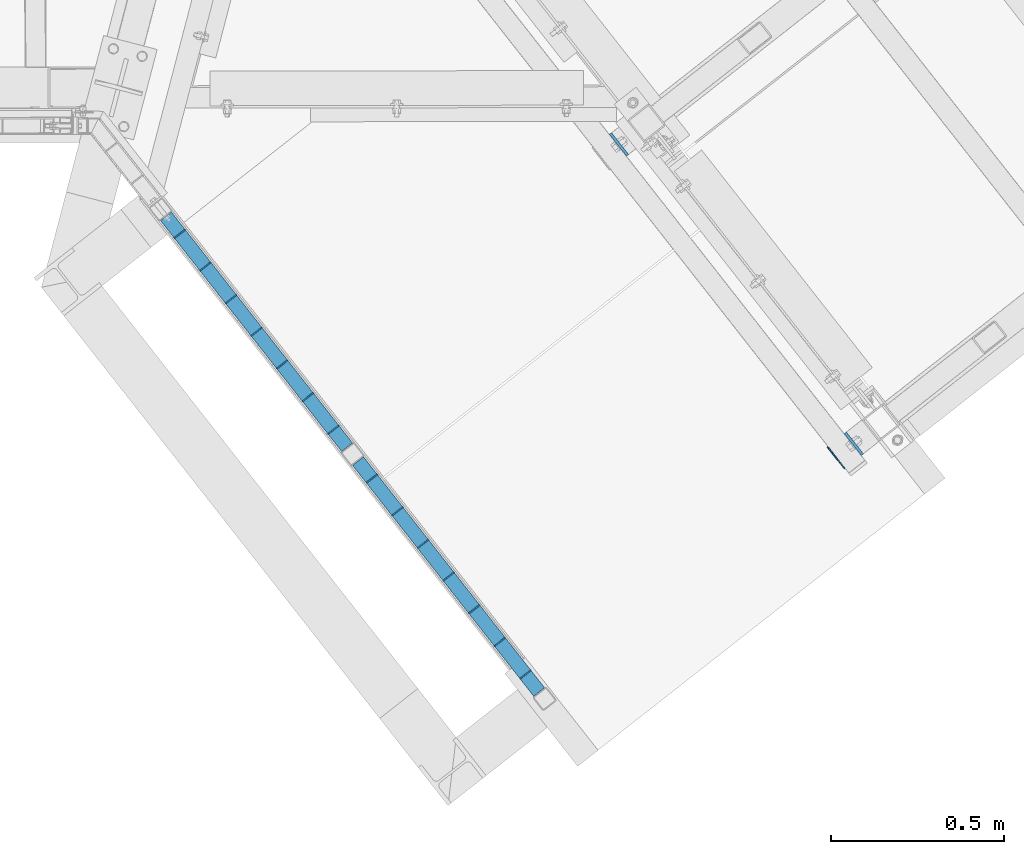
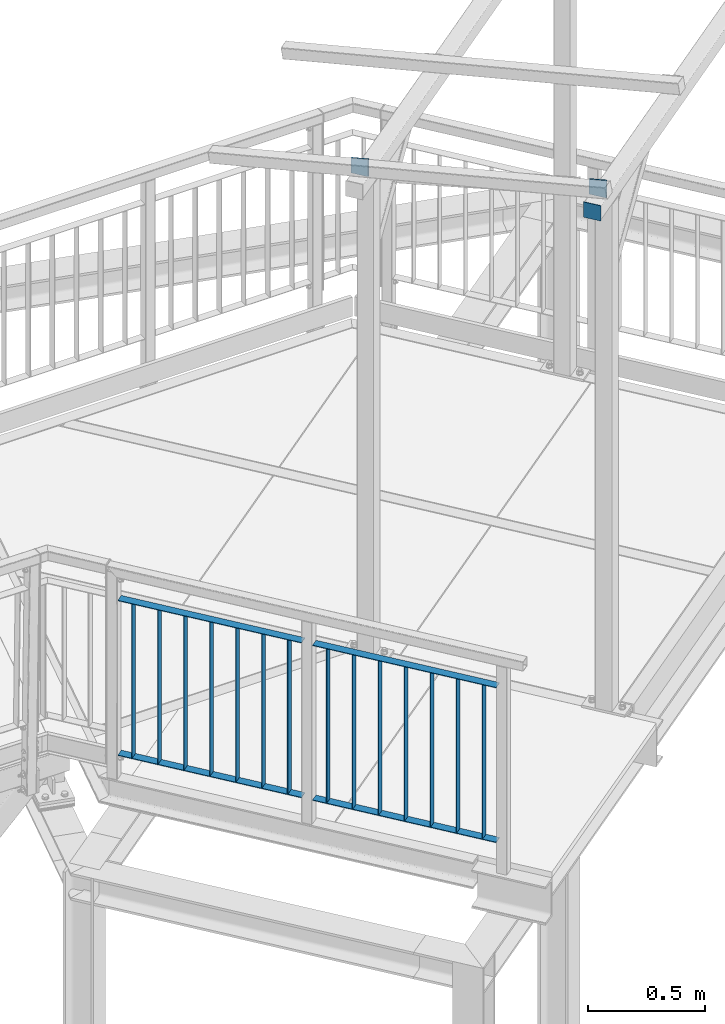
# One storey, part 124 of 169: 21 discrete accessories, 20 elements without a shape of their own.
"""IFC2X3 building model written with IfcOpenShell, lengths in millimetres."""

from ifc_helpers import new_model, si_unit, frame, origin_with_axes, origin_2d_with_axis, place, context, subcontext, project, spatial, polyline, rectangle, outline, extrude, boolean, clip, halfspace, material, type_object, element, aggregate, save


model = new_model("IFC2X3")

# Units and contexts
model_context = context("Model", 3, precision=1e-05, world=origin_with_axes())
body_context = subcontext(model_context, "Body", "Model", "MODEL_VIEW")
ifc_project = project(units=[si_unit("LENGTHUNIT", "METRE", prefix="MILLI"), si_unit("AREAUNIT", "SQUARE_METRE"), si_unit("VOLUMEUNIT", "CUBIC_METRE"), si_unit("MASSUNIT", "GRAM", prefix="KILO"), si_unit("TIMEUNIT", "SECOND"), si_unit("PLANEANGLEUNIT", "RADIAN"), si_unit("SOLIDANGLEUNIT", "STERADIAN"), si_unit("THERMODYNAMICTEMPERATUREUNIT", "DEGREE_CELSIUS"), si_unit("LUMINOUSINTENSITYUNIT", "LUMEN")], contexts=[model_context])

# Site, building, storey
site_placement = place(None, origin_with_axes())
site = spatial("IfcSite", under=ifc_project, at=site_placement, Name="Undefined", CompositionType="ELEMENT")
building_placement = place(site_placement, origin_with_axes())
building = spatial("IfcBuilding", under=site, at=building_placement, Name="Undefined", CompositionType="ELEMENT")
storey_placement = place(building_placement, origin_with_axes())
storey = spatial("IfcBuildingStorey", under=building, at=storey_placement, Name="Undefined", CompositionType="ELEMENT", Elevation=0.0)

# Assembly, discrete accessory
assembly_1_placement = place(storey_placement, origin_with_axes())
assembly_1 = element("IfcElementAssembly", 1, at=assembly_1_placement, inside=storey, Name="Steel Assembly", AssemblyPlace="NOTDEFINED", PredefinedType="RIGID_FRAME")
ifc_material = material(Name="STEEL/S235")
discrete_accessory_type_1 = type_object("IfcDiscreteAccessoryType", Name="BLACHA")
discrete_accessory_1_placement = place(assembly_1_placement, frame((20538.4952436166, -858.853045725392, 16540.2279191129), z_axis=(-0.7867732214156, -0.61724217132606, -1.0406294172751e-07), x_axis=(0.617242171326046, -0.786773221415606, 1.36000016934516e-07)))
discrete_accessory_1 = element("IfcDiscreteAccessory", 2, at=discrete_accessory_1_placement, type_object=discrete_accessory_type_1, material=ifc_material, Name="BLACHA", ObjectType="BL8*80", context=body_context, shape_type="SweptSolid", body=[
    extrude(outline(polyline([(0.0, 0.0), (80.0000000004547, 5.02041075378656e-10), (80.0000000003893, 89.9999999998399), (-2.08646997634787e-06, 77.0), (0.0, 0.0)])), frame((1.81942236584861e-12, -3.63797880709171e-12, -4.00000000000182), z_axis=(0.0, 0.0, 1.0), x_axis=(1.0, 0.0, 0.0)), (0.0, 0.0, 1.0), 8.0),
])

assembly_2_placement = place(storey_placement, origin_with_axes())
assembly_2 = element("IfcElementAssembly", 3, at=assembly_2_placement, inside=storey, Name="Steel Assembly", AssemblyPlace="NOTDEFINED", PredefinedType="RIGID_FRAME")
discrete_accessory_2_placement = place(assembly_2_placement, frame((19859.5290665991, 6.59722837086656, 16364.2279188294), z_axis=(-0.7867732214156, -0.61724217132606, -1.0406294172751e-07), x_axis=(0.617242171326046, -0.786773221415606, 1.36000016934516e-07)))
discrete_accessory_2 = element("IfcDiscreteAccessory", 4, at=discrete_accessory_2_placement, type_object=discrete_accessory_type_1, material=ifc_material, Name="BLACHA", ObjectType="BL8*80", context=body_context, shape_type="SweptSolid", body=[
    extrude(outline(polyline([(0.0, 0.0), (80.0000000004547, 5.02041075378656e-10), (80.0000000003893, 89.9999999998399), (-2.08646997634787e-06, 77.0), (0.0, 0.0)])), frame((1.81942236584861e-12, -3.63797880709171e-12, -4.00000000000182), z_axis=(0.0, 0.0, 1.0), x_axis=(1.0, 0.0, 0.0)), (0.0, 0.0, 1.0), 8.0),
])
aggregate(assembly_2, [discrete_accessory_2])

# Discrete accessory
discrete_accessory_3_placement = place(assembly_1_placement, frame((20486.9615975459, -899.282407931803, 16540.2279127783), z_axis=(0.786773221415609, 0.617242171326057, 0.0), x_axis=(0.617242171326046, -0.786773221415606, 1.36000016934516e-07)))
discrete_accessory_3 = element("IfcDiscreteAccessory", 5, at=discrete_accessory_3_placement, type_object=discrete_accessory_type_1, material=ifc_material, Name="BLACHA", ObjectType="BL3*80", context=body_context, shape_type="SweptSolid", body=[
    extrude(outline(polyline([(0.0, 0.0), (80.0000000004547, 5.02041075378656e-10), (80.0000000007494, 80.0000000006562), (1.40171323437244e-08, 80.0000000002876), (0.0, 0.0)])), frame((1.81898940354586e-12, -1.77635442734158e-15, -1.50000000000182), z_axis=(0.0, 0.0, 1.0), x_axis=(1.0, 0.0, 0.0)), (0.0, 0.0, 1.0), 3.0),
])

aggregate(assembly_1, [discrete_accessory_1, discrete_accessory_3])

# Assembly, discrete accessory
assembly_3_placement = place(storey_placement, origin_with_axes())
assembly_3 = element("IfcElementAssembly", 6, at=assembly_3_placement, inside=storey, Name="Steel Assembly", AssemblyPlace="NOTDEFINED", PredefinedType="RIGID_FRAME")
discrete_accessory_type_2 = type_object("IfcDiscreteAccessoryType", Name="PORĘCZ")
discrete_accessory_4_placement = place(assembly_3_placement, frame((19684.5379085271, -1648.0557913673, 14730.4174142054), z_axis=(-2.54700353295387e-10, 0.0, -1.0), x_axis=(-0.617242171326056, 0.786773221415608, 5.09999997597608e-08)))
discrete_accessory_4 = element("IfcDiscreteAccessory", 7, at=discrete_accessory_4_placement, type_object=discrete_accessory_type_2, material=ifc_material, Name="PORĘCZ", ObjectType="BL40*3", context=body_context, shape_type="CSG", body=[
    boolean("DIFFERENCE", boolean("DIFFERENCE", boolean("DIFFERENCE", boolean("DIFFERENCE", extrude(outline(polyline([(899.148526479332, -19.9999999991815), (50.500000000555, -19.9999999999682), (50.5000000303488, 20.0000000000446), (899.14852647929, 20.0000000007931), (899.148526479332, -19.9999999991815)])), frame((1.81898940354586e-12, -1.77635442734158e-15, -1.50000000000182), z_axis=(0.0, 0.0, 1.0), x_axis=(1.0, 0.0, 0.0)), (0.0, 0.0, 1.0), 3.0), extrude(rectangle(XDim=51.0, YDim=51.0, at=origin_2d_with_axis()), frame((25.0000000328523, 4.80036578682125e-08, -139.999999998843), z_axis=(0.0, 0.0, 1.0), x_axis=(1.0, 0.0, 0.0)), (0.0, 0.0, 1.0), 280.0)), extrude(rectangle(XDim=51.0, YDim=51.0, at=origin_2d_with_axis()), frame((924.648527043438, 1.38712238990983e-05, -140.000000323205), z_axis=(0.0, 0.0, 1.0), x_axis=(1.0, 0.0, 0.0)), (0.0, 0.0, 1.0), 280.0)), halfspace(frame((50.0000000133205, 1000.00000000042, 9.90996868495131e-05), z_axis=(1.0, 0.0, 0.0), x_axis=(-2.54700353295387e-10, 0.0, -1.0)), True)), halfspace(frame((899.648526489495, 1000.00000000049, 9.88982628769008e-05), z_axis=(-1.0, -3.46944695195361e-18, -1.38777878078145e-17), x_axis=(0.0, 0.0, 1.0)), True)),
])
aggregate(assembly_3, [discrete_accessory_4])

assembly_4_placement = place(storey_placement, origin_with_axes())
assembly_4 = element("IfcElementAssembly", 8, at=assembly_4_placement, inside=storey, Name="Steel Assembly", AssemblyPlace="NOTDEFINED", PredefinedType="RIGID_FRAME")
discrete_accessory_5_placement = place(assembly_4_placement, frame((19113.8058443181, -920.56709149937, 14730.4172924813), z_axis=(-2.54700353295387e-10, 0.0, -1.0), x_axis=(-0.617242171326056, 0.786773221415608, 5.09999997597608e-08)))
discrete_accessory_5 = element("IfcDiscreteAccessory", 9, at=discrete_accessory_5_placement, type_object=discrete_accessory_type_2, material=ifc_material, Name="PORĘCZ", ObjectType="BL40*3", context=body_context, shape_type="CSG", body=[
    boolean("DIFFERENCE", boolean("DIFFERENCE", boolean("DIFFERENCE", boolean("DIFFERENCE", extrude(outline(polyline([(874.148526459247, -19.9999999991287), (25.499999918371, -19.9999999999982), (25.4999999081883, 20.0000000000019), (874.148526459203, 20.0000000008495), (874.148526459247, -19.9999999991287)])), frame((1.81898940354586e-12, -1.77635442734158e-15, -1.50000000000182), z_axis=(0.0, 0.0, 1.0), x_axis=(1.0, 0.0, 0.0)), (0.0, 0.0, 1.0), 3.0), extrude(rectangle(XDim=51.0, YDim=51.0, at=origin_2d_with_axis()), frame((-5.94487782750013e-08, -4.65977194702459e-09, -139.999999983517), z_axis=(0.0, 0.0, 1.0), x_axis=(1.0, 0.0, 0.0)), (0.0, 0.0, 1.0), 280.0)), extrude(rectangle(XDim=51.0, YDim=51.0, at=origin_2d_with_axis()), frame((899.648526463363, 1.45715313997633e-05, -139.999999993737), z_axis=(0.0, 0.0, 1.0), x_axis=(1.0, 0.0, 0.0)), (0.0, 0.0, 1.0), 280.0)), halfspace(frame((24.9999999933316, 1000.00000000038, 0.000104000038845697), z_axis=(1.0, 0.0, 0.0), x_axis=(-2.54700353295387e-10, 0.0, -1.0)), True)), halfspace(frame((874.64852646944, 1000.00000000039, 0.000103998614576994), z_axis=(-1.0, -3.46944695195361e-18, -1.38777878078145e-17), x_axis=(0.0, 0.0, 1.0)), True)),
])
aggregate(assembly_4, [discrete_accessory_5])

assembly_5_placement = place(storey_placement, origin_with_axes())
assembly_5 = element("IfcElementAssembly", 10, at=assembly_5_placement, inside=storey, Name="Steel Assembly", AssemblyPlace="NOTDEFINED", PredefinedType="RIGID_FRAME")
discrete_accessory_6_placement = place(assembly_5_placement, frame((19613.6635188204, -1557.71512034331, 14875.4173990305), z_axis=(0.617242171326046, -0.786773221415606, 1.36000016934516e-07), x_axis=(-2.54700353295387e-10, 0.0, -1.0)))
discrete_accessory_6 = element("IfcDiscreteAccessory", 11, at=discrete_accessory_6_placement, type_object=discrete_accessory_type_2, material=ifc_material, Name="PORĘCZ", ObjectType="BL40*3", context=body_context, shape_type="Clipping", body=[
    clip(clip(clip(extrude(outline(polyline([(953.5, -20.0000000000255), (146.5, -20.0000000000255), (146.5, 20.0000000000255), (953.5, 20.0000000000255), (953.5, -20.0000000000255)])), frame((1.81898940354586e-12, -1.77635442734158e-15, -1.50000000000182), z_axis=(0.0, 0.0, 1.0), x_axis=(1.0, 0.0, 0.0)), (0.0, 0.0, 1.0), 3.0), halfspace(frame((146.5, 1000.00000000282, -1.78988557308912e-09), z_axis=(1.0, 0.0, 0.0), x_axis=(-2.54700353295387e-10, 0.0, -1.0)), True)), halfspace(frame((953.5, 999.999999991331, -2.08819983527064e-09), z_axis=(-1.0, -3.46944695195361e-18, -1.38777878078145e-17), x_axis=(0.0, 0.0, 1.0)), True)), halfspace(frame((24.9999999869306, 1000.00000000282, -1.78988557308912e-09), z_axis=(1.0, 0.0, 0.0), x_axis=(-2.54700353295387e-10, 0.0, -1.0)), True)),
])
aggregate(assembly_5, [discrete_accessory_6])

assembly_6_placement = place(storey_placement, origin_with_axes())
assembly_6 = element("IfcElementAssembly", 12, at=assembly_6_placement, inside=storey, Name="Steel Assembly", AssemblyPlace="NOTDEFINED", PredefinedType="RIGID_FRAME")
discrete_accessory_7_placement = place(assembly_6_placement, frame((19539.594458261, -1463.3023337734, 14875.4173832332), z_axis=(0.617242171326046, -0.786773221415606, 1.36000016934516e-07), x_axis=(-2.54700353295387e-10, 0.0, -1.0)))
discrete_accessory_7 = element("IfcDiscreteAccessory", 13, at=discrete_accessory_7_placement, type_object=discrete_accessory_type_2, material=ifc_material, Name="PORĘCZ", ObjectType="BL40*3", context=body_context, shape_type="Clipping", body=[
    clip(clip(clip(extrude(outline(polyline([(953.5, -20.0000000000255), (146.5, -20.0000000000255), (146.5, 20.0000000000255), (953.5, 20.0000000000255), (953.5, -20.0000000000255)])), frame((1.81898940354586e-12, -1.77635442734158e-15, -1.50000000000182), z_axis=(0.0, 0.0, 1.0), x_axis=(1.0, 0.0, 0.0)), (0.0, 0.0, 1.0), 3.0), halfspace(frame((146.5, 1000.00000000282, -1.78988557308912e-09), z_axis=(1.0, 0.0, 0.0), x_axis=(-2.54700353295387e-10, 0.0, -1.0)), True)), halfspace(frame((953.5, 999.999999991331, -2.08819983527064e-09), z_axis=(-1.0, -3.46944695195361e-18, -1.38777878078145e-17), x_axis=(0.0, 0.0, 1.0)), True)), halfspace(frame((24.9999999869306, 1000.00000000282, -1.78988557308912e-09), z_axis=(1.0, 0.0, 0.0), x_axis=(-2.54700353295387e-10, 0.0, -1.0)), True)),
])
aggregate(assembly_6, [discrete_accessory_7])

assembly_7_placement = place(storey_placement, origin_with_axes())
assembly_7 = element("IfcElementAssembly", 14, at=assembly_7_placement, inside=storey, Name="Steel Assembly", AssemblyPlace="NOTDEFINED", PredefinedType="RIGID_FRAME")
discrete_accessory_8_placement = place(assembly_7_placement, frame((19465.5253977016, -1368.8895472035, 14875.417367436), z_axis=(0.617242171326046, -0.786773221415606, 1.36000016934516e-07), x_axis=(-2.54700353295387e-10, 0.0, -1.0)))
discrete_accessory_8 = element("IfcDiscreteAccessory", 15, at=discrete_accessory_8_placement, type_object=discrete_accessory_type_2, material=ifc_material, Name="PORĘCZ", ObjectType="BL40*3", context=body_context, shape_type="Clipping", body=[
    clip(clip(clip(extrude(outline(polyline([(953.5, -20.0000000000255), (146.5, -20.0000000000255), (146.5, 20.0000000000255), (953.5, 20.0000000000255), (953.5, -20.0000000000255)])), frame((1.81898940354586e-12, -1.77635442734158e-15, -1.50000000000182), z_axis=(0.0, 0.0, 1.0), x_axis=(1.0, 0.0, 0.0)), (0.0, 0.0, 1.0), 3.0), halfspace(frame((146.5, 1000.00000000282, -1.78988557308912e-09), z_axis=(1.0, 0.0, 0.0), x_axis=(-2.54700353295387e-10, 0.0, -1.0)), True)), halfspace(frame((953.5, 999.999999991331, -2.08819983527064e-09), z_axis=(-1.0, -3.46944695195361e-18, -1.38777878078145e-17), x_axis=(0.0, 0.0, 1.0)), True)), halfspace(frame((24.9999999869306, 1000.00000000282, -1.78988557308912e-09), z_axis=(1.0, 0.0, 0.0), x_axis=(-2.54700353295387e-10, 0.0, -1.0)), True)),
])
aggregate(assembly_7, [discrete_accessory_8])

assembly_8_placement = place(storey_placement, origin_with_axes())
assembly_8 = element("IfcElementAssembly", 16, at=assembly_8_placement, inside=storey, Name="Steel Assembly", AssemblyPlace="NOTDEFINED", PredefinedType="RIGID_FRAME")
discrete_accessory_9_placement = place(assembly_8_placement, frame((19391.4563371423, -1274.47676063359, 14875.4173516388), z_axis=(0.617242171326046, -0.786773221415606, 1.36000016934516e-07), x_axis=(-2.54700353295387e-10, 0.0, -1.0)))
discrete_accessory_9 = element("IfcDiscreteAccessory", 17, at=discrete_accessory_9_placement, type_object=discrete_accessory_type_2, material=ifc_material, Name="PORĘCZ", ObjectType="BL40*3", context=body_context, shape_type="Clipping", body=[
    clip(clip(clip(extrude(outline(polyline([(953.5, -20.0000000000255), (146.5, -20.0000000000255), (146.5, 20.0000000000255), (953.5, 20.0000000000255), (953.5, -20.0000000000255)])), frame((1.81898940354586e-12, -1.77635442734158e-15, -1.50000000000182), z_axis=(0.0, 0.0, 1.0), x_axis=(1.0, 0.0, 0.0)), (0.0, 0.0, 1.0), 3.0), halfspace(frame((146.5, 1000.00000000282, -1.78988557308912e-09), z_axis=(1.0, 0.0, 0.0), x_axis=(-2.54700353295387e-10, 0.0, -1.0)), True)), halfspace(frame((953.5, 999.999999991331, -2.08819983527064e-09), z_axis=(-1.0, -3.46944695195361e-18, -1.38777878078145e-17), x_axis=(0.0, 0.0, 1.0)), True)), halfspace(frame((24.9999999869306, 1000.00000000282, -1.78988557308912e-09), z_axis=(1.0, 0.0, 0.0), x_axis=(-2.54700353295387e-10, 0.0, -1.0)), True)),
])
aggregate(assembly_8, [discrete_accessory_9])

assembly_9_placement = place(storey_placement, origin_with_axes())
assembly_9 = element("IfcElementAssembly", 18, at=assembly_9_placement, inside=storey, Name="Steel Assembly", AssemblyPlace="NOTDEFINED", PredefinedType="RIGID_FRAME")
discrete_accessory_10_placement = place(assembly_9_placement, frame((19317.387276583, -1180.06397406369, 14875.4173358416), z_axis=(0.617242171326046, -0.786773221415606, 1.36000016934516e-07), x_axis=(-2.54700353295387e-10, 0.0, -1.0)))
discrete_accessory_10 = element("IfcDiscreteAccessory", 19, at=discrete_accessory_10_placement, type_object=discrete_accessory_type_2, material=ifc_material, Name="PORĘCZ", ObjectType="BL40*3", context=body_context, shape_type="Clipping", body=[
    clip(clip(clip(extrude(outline(polyline([(953.5, -20.0000000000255), (146.5, -20.0000000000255), (146.5, 20.0000000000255), (953.5, 20.0000000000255), (953.5, -20.0000000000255)])), frame((1.81898940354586e-12, -1.77635442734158e-15, -1.50000000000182), z_axis=(0.0, 0.0, 1.0), x_axis=(1.0, 0.0, 0.0)), (0.0, 0.0, 1.0), 3.0), halfspace(frame((146.5, 1000.00000000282, -1.78988557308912e-09), z_axis=(1.0, 0.0, 0.0), x_axis=(-2.54700353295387e-10, 0.0, -1.0)), True)), halfspace(frame((953.5, 999.999999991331, -2.08819983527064e-09), z_axis=(-1.0, -3.46944695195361e-18, -1.38777878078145e-17), x_axis=(0.0, 0.0, 1.0)), True)), halfspace(frame((24.9999999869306, 1000.00000000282, -1.78988557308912e-09), z_axis=(1.0, 0.0, 0.0), x_axis=(-2.54700353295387e-10, 0.0, -1.0)), True)),
])
aggregate(assembly_9, [discrete_accessory_10])

assembly_10_placement = place(storey_placement, origin_with_axes())
assembly_10 = element("IfcElementAssembly", 20, at=assembly_10_placement, inside=storey, Name="Steel Assembly", AssemblyPlace="NOTDEFINED", PredefinedType="RIGID_FRAME")
discrete_accessory_11_placement = place(assembly_10_placement, frame((19243.3182160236, -1085.65118749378, 14875.4173200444), z_axis=(0.617242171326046, -0.786773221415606, 1.36000016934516e-07), x_axis=(-2.54700353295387e-10, 0.0, -1.0)))
discrete_accessory_11 = element("IfcDiscreteAccessory", 21, at=discrete_accessory_11_placement, type_object=discrete_accessory_type_2, material=ifc_material, Name="PORĘCZ", ObjectType="BL40*3", context=body_context, shape_type="Clipping", body=[
    clip(clip(clip(extrude(outline(polyline([(953.5, -20.0000000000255), (146.5, -20.0000000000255), (146.5, 20.0000000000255), (953.5, 20.0000000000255), (953.5, -20.0000000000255)])), frame((1.81898940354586e-12, -1.77635442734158e-15, -1.50000000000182), z_axis=(0.0, 0.0, 1.0), x_axis=(1.0, 0.0, 0.0)), (0.0, 0.0, 1.0), 3.0), halfspace(frame((146.5, 1000.00000000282, -1.78988557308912e-09), z_axis=(1.0, 0.0, 0.0), x_axis=(-2.54700353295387e-10, 0.0, -1.0)), True)), halfspace(frame((953.5, 999.999999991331, -2.08819983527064e-09), z_axis=(-1.0, -3.46944695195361e-18, -1.38777878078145e-17), x_axis=(0.0, 0.0, 1.0)), True)), halfspace(frame((24.9999999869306, 1000.00000000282, -1.78988557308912e-09), z_axis=(1.0, 0.0, 0.0), x_axis=(-2.54700353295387e-10, 0.0, -1.0)), True)),
])
aggregate(assembly_10, [discrete_accessory_11])

assembly_11_placement = place(storey_placement, origin_with_axes())
assembly_11 = element("IfcElementAssembly", 22, at=assembly_11_placement, inside=storey, Name="Steel Assembly", AssemblyPlace="NOTDEFINED", PredefinedType="RIGID_FRAME")
discrete_accessory_12_placement = place(assembly_11_placement, frame((19169.2491554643, -991.238400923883, 14875.4173042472), z_axis=(0.617242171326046, -0.786773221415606, 1.36000016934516e-07), x_axis=(-2.54700353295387e-10, 0.0, -1.0)))
discrete_accessory_12 = element("IfcDiscreteAccessory", 23, at=discrete_accessory_12_placement, type_object=discrete_accessory_type_2, material=ifc_material, Name="PORĘCZ", ObjectType="BL40*3", context=body_context, shape_type="Clipping", body=[
    clip(clip(clip(extrude(outline(polyline([(953.5, -20.0000000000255), (146.5, -20.0000000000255), (146.5, 20.0000000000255), (953.5, 20.0000000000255), (953.5, -20.0000000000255)])), frame((1.81898940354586e-12, -1.77635442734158e-15, -1.50000000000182), z_axis=(0.0, 0.0, 1.0), x_axis=(1.0, 0.0, 0.0)), (0.0, 0.0, 1.0), 3.0), halfspace(frame((146.5, 1000.00000000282, -1.78988557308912e-09), z_axis=(1.0, 0.0, 0.0), x_axis=(-2.54700353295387e-10, 0.0, -1.0)), True)), halfspace(frame((953.5, 999.999999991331, -2.08819983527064e-09), z_axis=(-1.0, -3.46944695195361e-18, -1.38777878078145e-17), x_axis=(0.0, 0.0, 1.0)), True)), halfspace(frame((24.9999999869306, 1000.00000000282, -1.78988557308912e-09), z_axis=(1.0, 0.0, 0.0), x_axis=(-2.54700353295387e-10, 0.0, -1.0)), True)),
])
aggregate(assembly_11, [discrete_accessory_12])

assembly_12_placement = place(storey_placement, origin_with_axes())
assembly_12 = element("IfcElementAssembly", 24, at=assembly_12_placement, inside=storey, Name="Steel Assembly", AssemblyPlace="NOTDEFINED", PredefinedType="RIGID_FRAME")
discrete_accessory_13_placement = place(assembly_12_placement, frame((19058.3625089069, -849.895751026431, 14875.4172802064), z_axis=(0.617242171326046, -0.786773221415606, 1.36000016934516e-07), x_axis=(-2.54700353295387e-10, 0.0, -1.0)))
discrete_accessory_13 = element("IfcDiscreteAccessory", 25, at=discrete_accessory_13_placement, type_object=discrete_accessory_type_2, material=ifc_material, Name="PORĘCZ", ObjectType="BL40*3", context=body_context, shape_type="Clipping", body=[
    clip(clip(clip(extrude(outline(polyline([(953.5, -20.0000000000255), (146.5, -20.0000000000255), (146.5, 20.0000000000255), (953.5, 20.0000000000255), (953.5, -20.0000000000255)])), frame((1.81898940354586e-12, -1.77635442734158e-15, -1.50000000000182), z_axis=(0.0, 0.0, 1.0), x_axis=(1.0, 0.0, 0.0)), (0.0, 0.0, 1.0), 3.0), halfspace(frame((146.5, 1000.00000000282, -1.78988557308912e-09), z_axis=(1.0, 0.0, 0.0), x_axis=(-2.54700353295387e-10, 0.0, -1.0)), True)), halfspace(frame((953.5, 999.999999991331, -2.08819983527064e-09), z_axis=(-1.0, -3.46944695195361e-18, -1.38777878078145e-17), x_axis=(0.0, 0.0, 1.0)), True)), halfspace(frame((24.9999999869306, 1000.00000000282, -1.78988557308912e-09), z_axis=(1.0, 0.0, 0.0), x_axis=(-2.54700353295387e-10, 0.0, -1.0)), True)),
])
aggregate(assembly_12, [discrete_accessory_13])

assembly_13_placement = place(storey_placement, origin_with_axes())
assembly_13 = element("IfcElementAssembly", 26, at=assembly_13_placement, inside=storey, Name="Steel Assembly", AssemblyPlace="NOTDEFINED", PredefinedType="RIGID_FRAME")
discrete_accessory_14_placement = place(assembly_13_placement, frame((18984.2934483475, -755.482964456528, 14875.4172638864), z_axis=(0.617242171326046, -0.786773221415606, 1.36000016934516e-07), x_axis=(-2.54700353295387e-10, 0.0, -1.0)))
discrete_accessory_14 = element("IfcDiscreteAccessory", 27, at=discrete_accessory_14_placement, type_object=discrete_accessory_type_2, material=ifc_material, Name="PORĘCZ", ObjectType="BL40*3", context=body_context, shape_type="Clipping", body=[
    clip(clip(clip(extrude(outline(polyline([(953.5, -20.0000000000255), (146.5, -20.0000000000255), (146.5, 20.0000000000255), (953.5, 20.0000000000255), (953.5, -20.0000000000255)])), frame((1.81898940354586e-12, -1.77635442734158e-15, -1.50000000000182), z_axis=(0.0, 0.0, 1.0), x_axis=(1.0, 0.0, 0.0)), (0.0, 0.0, 1.0), 3.0), halfspace(frame((146.5, 1000.00000000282, -1.78988557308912e-09), z_axis=(1.0, 0.0, 0.0), x_axis=(-2.54700353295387e-10, 0.0, -1.0)), True)), halfspace(frame((953.5, 999.999999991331, -2.08819983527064e-09), z_axis=(-1.0, -3.46944695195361e-18, -1.38777878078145e-17), x_axis=(0.0, 0.0, 1.0)), True)), halfspace(frame((24.9999999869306, 1000.00000000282, -1.78988557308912e-09), z_axis=(1.0, 0.0, 0.0), x_axis=(-2.54700353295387e-10, 0.0, -1.0)), True)),
])
aggregate(assembly_13, [discrete_accessory_14])

assembly_14_placement = place(storey_placement, origin_with_axes())
assembly_14 = element("IfcElementAssembly", 28, at=assembly_14_placement, inside=storey, Name="Steel Assembly", AssemblyPlace="NOTDEFINED", PredefinedType="RIGID_FRAME")
discrete_accessory_15_placement = place(assembly_14_placement, frame((18910.2243877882, -661.070177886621, 14875.4172475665), z_axis=(0.617242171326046, -0.786773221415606, 1.36000016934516e-07), x_axis=(-2.54700353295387e-10, 0.0, -1.0)))
discrete_accessory_15 = element("IfcDiscreteAccessory", 29, at=discrete_accessory_15_placement, type_object=discrete_accessory_type_2, material=ifc_material, Name="PORĘCZ", ObjectType="BL40*3", context=body_context, shape_type="Clipping", body=[
    clip(clip(clip(extrude(outline(polyline([(953.5, -20.0000000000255), (146.5, -20.0000000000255), (146.5, 20.0000000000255), (953.5, 20.0000000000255), (953.5, -20.0000000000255)])), frame((1.81898940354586e-12, -1.77635442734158e-15, -1.50000000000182), z_axis=(0.0, 0.0, 1.0), x_axis=(1.0, 0.0, 0.0)), (0.0, 0.0, 1.0), 3.0), halfspace(frame((146.5, 1000.00000000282, -1.78988557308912e-09), z_axis=(1.0, 0.0, 0.0), x_axis=(-2.54700353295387e-10, 0.0, -1.0)), True)), halfspace(frame((953.5, 999.999999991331, -2.08819983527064e-09), z_axis=(-1.0, -3.46944695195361e-18, -1.38777878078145e-17), x_axis=(0.0, 0.0, 1.0)), True)), halfspace(frame((24.9999999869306, 1000.00000000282, -1.78988557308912e-09), z_axis=(1.0, 0.0, 0.0), x_axis=(-2.54700353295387e-10, 0.0, -1.0)), True)),
])
aggregate(assembly_14, [discrete_accessory_15])

assembly_15_placement = place(storey_placement, origin_with_axes())
assembly_15 = element("IfcElementAssembly", 30, at=assembly_15_placement, inside=storey, Name="Steel Assembly", AssemblyPlace="NOTDEFINED", PredefinedType="RIGID_FRAME")
discrete_accessory_16_placement = place(assembly_15_placement, frame((18836.1553272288, -566.657391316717, 14875.4172312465), z_axis=(0.617242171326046, -0.786773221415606, 1.36000016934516e-07), x_axis=(-2.54700353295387e-10, 0.0, -1.0)))
discrete_accessory_16 = element("IfcDiscreteAccessory", 31, at=discrete_accessory_16_placement, type_object=discrete_accessory_type_2, material=ifc_material, Name="PORĘCZ", ObjectType="BL40*3", context=body_context, shape_type="Clipping", body=[
    clip(clip(clip(extrude(outline(polyline([(953.5, -20.0000000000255), (146.5, -20.0000000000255), (146.5, 20.0000000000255), (953.5, 20.0000000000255), (953.5, -20.0000000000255)])), frame((1.81898940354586e-12, -1.77635442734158e-15, -1.50000000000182), z_axis=(0.0, 0.0, 1.0), x_axis=(1.0, 0.0, 0.0)), (0.0, 0.0, 1.0), 3.0), halfspace(frame((146.5, 1000.00000000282, -1.78988557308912e-09), z_axis=(1.0, 0.0, 0.0), x_axis=(-2.54700353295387e-10, 0.0, -1.0)), True)), halfspace(frame((953.5, 999.999999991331, -2.08819983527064e-09), z_axis=(-1.0, -3.46944695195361e-18, -1.38777878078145e-17), x_axis=(0.0, 0.0, 1.0)), True)), halfspace(frame((24.9999999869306, 1000.00000000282, -1.78988557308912e-09), z_axis=(1.0, 0.0, 0.0), x_axis=(-2.54700353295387e-10, 0.0, -1.0)), True)),
])
aggregate(assembly_15, [discrete_accessory_16])

assembly_16_placement = place(storey_placement, origin_with_axes())
assembly_16 = element("IfcElementAssembly", 32, at=assembly_16_placement, inside=storey, Name="Steel Assembly", AssemblyPlace="NOTDEFINED", PredefinedType="RIGID_FRAME")
discrete_accessory_17_placement = place(assembly_16_placement, frame((18762.0862666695, -472.244604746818, 14875.4172149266), z_axis=(0.617242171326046, -0.786773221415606, 1.36000016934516e-07), x_axis=(-2.54700353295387e-10, 0.0, -1.0)))
discrete_accessory_17 = element("IfcDiscreteAccessory", 33, at=discrete_accessory_17_placement, type_object=discrete_accessory_type_2, material=ifc_material, Name="PORĘCZ", ObjectType="BL40*3", context=body_context, shape_type="Clipping", body=[
    clip(clip(clip(extrude(outline(polyline([(953.5, -20.0000000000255), (146.5, -20.0000000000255), (146.5, 20.0000000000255), (953.5, 20.0000000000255), (953.5, -20.0000000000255)])), frame((1.81898940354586e-12, -1.77635442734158e-15, -1.50000000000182), z_axis=(0.0, 0.0, 1.0), x_axis=(1.0, 0.0, 0.0)), (0.0, 0.0, 1.0), 3.0), halfspace(frame((146.5, 1000.00000000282, -1.78988557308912e-09), z_axis=(1.0, 0.0, 0.0), x_axis=(-2.54700353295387e-10, 0.0, -1.0)), True)), halfspace(frame((953.5, 999.999999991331, -2.08819983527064e-09), z_axis=(-1.0, -3.46944695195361e-18, -1.38777878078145e-17), x_axis=(0.0, 0.0, 1.0)), True)), halfspace(frame((24.9999999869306, 1000.00000000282, -1.78988557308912e-09), z_axis=(1.0, 0.0, 0.0), x_axis=(-2.54700353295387e-10, 0.0, -1.0)), True)),
])
aggregate(assembly_16, [discrete_accessory_17])

assembly_17_placement = place(storey_placement, origin_with_axes())
assembly_17 = element("IfcElementAssembly", 34, at=assembly_17_placement, inside=storey, Name="Steel Assembly", AssemblyPlace="NOTDEFINED", PredefinedType="RIGID_FRAME")
discrete_accessory_18_placement = place(assembly_17_placement, frame((18688.0172061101, -377.831818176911, 14875.4171986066), z_axis=(0.617242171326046, -0.786773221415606, 1.36000016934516e-07), x_axis=(-2.54700353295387e-10, 0.0, -1.0)))
discrete_accessory_18 = element("IfcDiscreteAccessory", 35, at=discrete_accessory_18_placement, type_object=discrete_accessory_type_2, material=ifc_material, Name="PORĘCZ", ObjectType="BL40*3", context=body_context, shape_type="Clipping", body=[
    clip(clip(clip(extrude(outline(polyline([(953.5, -20.0000000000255), (146.5, -20.0000000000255), (146.5, 20.0000000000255), (953.5, 20.0000000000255), (953.5, -20.0000000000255)])), frame((1.81898940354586e-12, -1.77635442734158e-15, -1.50000000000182), z_axis=(0.0, 0.0, 1.0), x_axis=(1.0, 0.0, 0.0)), (0.0, 0.0, 1.0), 3.0), halfspace(frame((146.5, 1000.00000000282, -1.78988557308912e-09), z_axis=(1.0, 0.0, 0.0), x_axis=(-2.54700353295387e-10, 0.0, -1.0)), True)), halfspace(frame((953.5, 999.999999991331, -2.08819983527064e-09), z_axis=(-1.0, -3.46944695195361e-18, -1.38777878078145e-17), x_axis=(0.0, 0.0, 1.0)), True)), halfspace(frame((24.9999999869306, 1000.00000000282, -1.78988557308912e-09), z_axis=(1.0, 0.0, 0.0), x_axis=(-2.54700353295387e-10, 0.0, -1.0)), True)),
])
aggregate(assembly_17, [discrete_accessory_18])

assembly_18_placement = place(storey_placement, origin_with_axes())
assembly_18 = element("IfcElementAssembly", 36, at=assembly_18_placement, inside=storey, Name="Steel Assembly", AssemblyPlace="NOTDEFINED", PredefinedType="RIGID_FRAME")
discrete_accessory_19_placement = place(assembly_18_placement, frame((18613.9481455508, -283.419031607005, 14875.4171822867), z_axis=(0.617242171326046, -0.786773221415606, 1.36000016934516e-07), x_axis=(-2.54700353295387e-10, 0.0, -1.0)))
discrete_accessory_19 = element("IfcDiscreteAccessory", 37, at=discrete_accessory_19_placement, type_object=discrete_accessory_type_2, material=ifc_material, Name="PORĘCZ", ObjectType="BL40*3", context=body_context, shape_type="Clipping", body=[
    clip(clip(clip(extrude(outline(polyline([(953.5, -20.0000000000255), (146.5, -20.0000000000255), (146.5, 20.0000000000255), (953.5, 20.0000000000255), (953.5, -20.0000000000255)])), frame((1.81898940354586e-12, -1.77635442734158e-15, -1.50000000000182), z_axis=(0.0, 0.0, 1.0), x_axis=(1.0, 0.0, 0.0)), (0.0, 0.0, 1.0), 3.0), halfspace(frame((146.5, 1000.00000000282, -1.78988557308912e-09), z_axis=(1.0, 0.0, 0.0), x_axis=(-2.54700353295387e-10, 0.0, -1.0)), True)), halfspace(frame((953.5, 999.999999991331, -2.08819983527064e-09), z_axis=(-1.0, -3.46944695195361e-18, -1.38777878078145e-17), x_axis=(0.0, 0.0, 1.0)), True)), halfspace(frame((24.9999999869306, 1000.00000000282, -1.78988557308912e-09), z_axis=(1.0, 0.0, 0.0), x_axis=(-2.54700353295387e-10, 0.0, -1.0)), True)),
])
aggregate(assembly_18, [discrete_accessory_19])

assembly_19_placement = place(storey_placement, origin_with_axes())
assembly_19 = element("IfcElementAssembly", 38, at=assembly_19_placement, inside=storey, Name="Steel Assembly", AssemblyPlace="NOTDEFINED", PredefinedType="RIGID_FRAME")
discrete_accessory_20_placement = place(assembly_19_placement, frame((19684.537976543, -1648.0558780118, 13920.417414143), z_axis=(-2.54700353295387e-10, 0.0, -1.0), x_axis=(-0.617242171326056, 0.786773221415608, 5.09999997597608e-08)))
discrete_accessory_20 = element("IfcDiscreteAccessory", 39, at=discrete_accessory_20_placement, type_object=discrete_accessory_type_2, material=ifc_material, Name="PORĘCZ", ObjectType="BL40*3", context=body_context, shape_type="CSG", body=[
    boolean("DIFFERENCE", boolean("DIFFERENCE", boolean("DIFFERENCE", boolean("DIFFERENCE", extrude(outline(polyline([(899.148526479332, -19.9999999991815), (50.500000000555, -19.9999999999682), (50.5000000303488, 20.0000000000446), (899.14852647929, 20.0000000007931), (899.148526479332, -19.9999999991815)])), frame((1.81898940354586e-12, -1.77635442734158e-15, -1.50000000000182), z_axis=(0.0, 0.0, 1.0), x_axis=(1.0, 0.0, 0.0)), (0.0, 0.0, 1.0), 3.0), extrude(rectangle(XDim=51.0, YDim=51.0, at=origin_2d_with_axis()), frame((25.0000000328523, 4.80036578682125e-08, -139.999999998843), z_axis=(0.0, 0.0, 1.0), x_axis=(1.0, 0.0, 0.0)), (0.0, 0.0, 1.0), 280.0)), extrude(rectangle(XDim=51.0, YDim=51.0, at=origin_2d_with_axis()), frame((924.648527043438, 1.38712238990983e-05, -140.000000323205), z_axis=(0.0, 0.0, 1.0), x_axis=(1.0, 0.0, 0.0)), (0.0, 0.0, 1.0), 280.0)), halfspace(frame((50.0000000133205, 1000.00000000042, 9.90996868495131e-05), z_axis=(1.0, 0.0, 0.0), x_axis=(-2.54700353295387e-10, 0.0, -1.0)), True)), halfspace(frame((899.648526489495, 1000.00000000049, 9.88982628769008e-05), z_axis=(-1.0, -3.46944695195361e-18, -1.38777878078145e-17), x_axis=(0.0, 0.0, 1.0)), True)),
])
aggregate(assembly_19, [discrete_accessory_20])

assembly_20_placement = place(storey_placement, origin_with_axes())
assembly_20 = element("IfcElementAssembly", 40, at=assembly_20_placement, inside=storey, Name="Steel Assembly", AssemblyPlace="NOTDEFINED", PredefinedType="RIGID_FRAME")
discrete_accessory_21_placement = place(assembly_20_placement, frame((19113.8059123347, -920.567178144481, 13920.4172924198), z_axis=(-2.54700353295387e-10, 0.0, -1.0), x_axis=(-0.617242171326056, 0.786773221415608, 5.09999997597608e-08)))
discrete_accessory_21 = element("IfcDiscreteAccessory", 41, at=discrete_accessory_21_placement, type_object=discrete_accessory_type_2, material=ifc_material, Name="PORĘCZ", ObjectType="BL40*3", context=body_context, shape_type="CSG", body=[
    boolean("DIFFERENCE", boolean("DIFFERENCE", boolean("DIFFERENCE", boolean("DIFFERENCE", extrude(outline(polyline([(874.148526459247, -19.9999999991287), (25.499999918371, -19.9999999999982), (25.4999999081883, 20.0000000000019), (874.148526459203, 20.0000000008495), (874.148526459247, -19.9999999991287)])), frame((1.81898940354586e-12, -1.77635442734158e-15, -1.50000000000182), z_axis=(0.0, 0.0, 1.0), x_axis=(1.0, 0.0, 0.0)), (0.0, 0.0, 1.0), 3.0), extrude(rectangle(XDim=51.0, YDim=51.0, at=origin_2d_with_axis()), frame((-5.94487782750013e-08, -4.65977194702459e-09, -139.999999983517), z_axis=(0.0, 0.0, 1.0), x_axis=(1.0, 0.0, 0.0)), (0.0, 0.0, 1.0), 280.0)), extrude(rectangle(XDim=51.0, YDim=51.0, at=origin_2d_with_axis()), frame((899.648526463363, 1.45715313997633e-05, -139.999999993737), z_axis=(0.0, 0.0, 1.0), x_axis=(1.0, 0.0, 0.0)), (0.0, 0.0, 1.0), 280.0)), halfspace(frame((24.9999999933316, 1000.00000000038, 0.000104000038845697), z_axis=(1.0, 0.0, 0.0), x_axis=(-2.54700353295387e-10, 0.0, -1.0)), True)), halfspace(frame((874.64852646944, 1000.00000000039, 0.000103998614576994), z_axis=(-1.0, -3.46944695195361e-18, -1.38777878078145e-17), x_axis=(0.0, 0.0, 1.0)), True)),
])
aggregate(assembly_20, [discrete_accessory_21])

save(model, "model.ifc")
